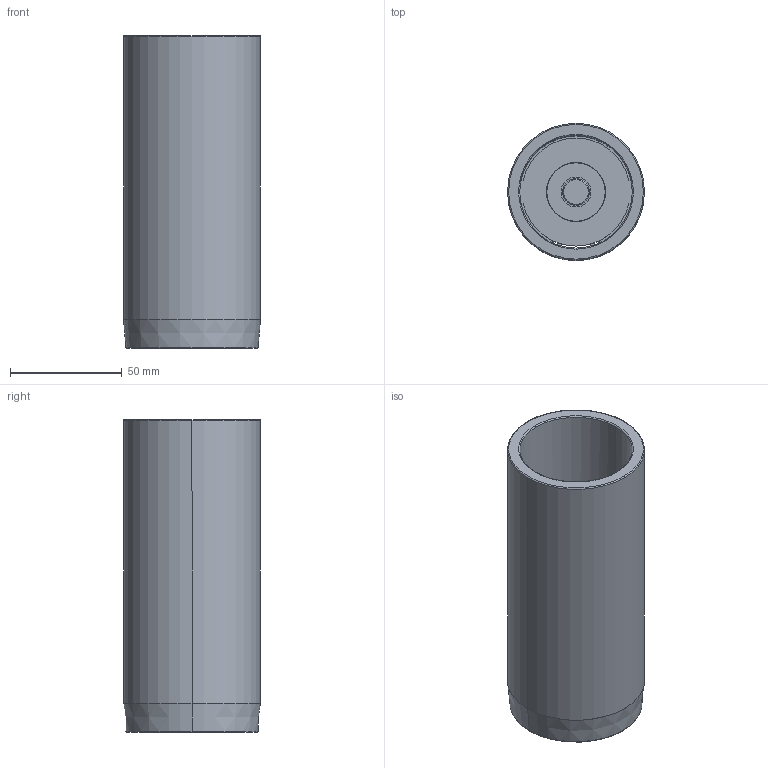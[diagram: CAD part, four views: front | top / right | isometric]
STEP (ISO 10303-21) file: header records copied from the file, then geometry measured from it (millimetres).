
FILE_DESCRIPTION((''),'2;1');
FILE_NAME('C12_050_140.stp','2009-01-28T14:16:57',(''),(''),'Mechanical Desktop 2009','Mechanical Desktop 2009',', , ');
FILE_SCHEMA(('CONFIG_CONTROL_DESIGN'));
Length unit declared in the file: millimetre
Products named in the file (2): Product; blmdl1
Assembly tree (1 placements, depth 2):
  Product
    blmdl1
Bounding box: 61.25 x 61.25 x 140 mm (x, y, z)
Volume: 140296.8 mm3; surface area: 60706.2 mm2
Topology: 5 solids, 5 shells, 79 faces, 200 edges, 134 vertices
Faces by surface type: cylinder 34, plane 29, torus 10, cone 6
Entity records: 2585 total; most frequent: DIRECTION 480, CARTESIAN_POINT 435, ORIENTED_EDGE 400, AXIS2_PLACEMENT_3D 203, EDGE_CURVE 200, VERTEX_POINT 134, CIRCLE 122, EDGE_LOOP 92
